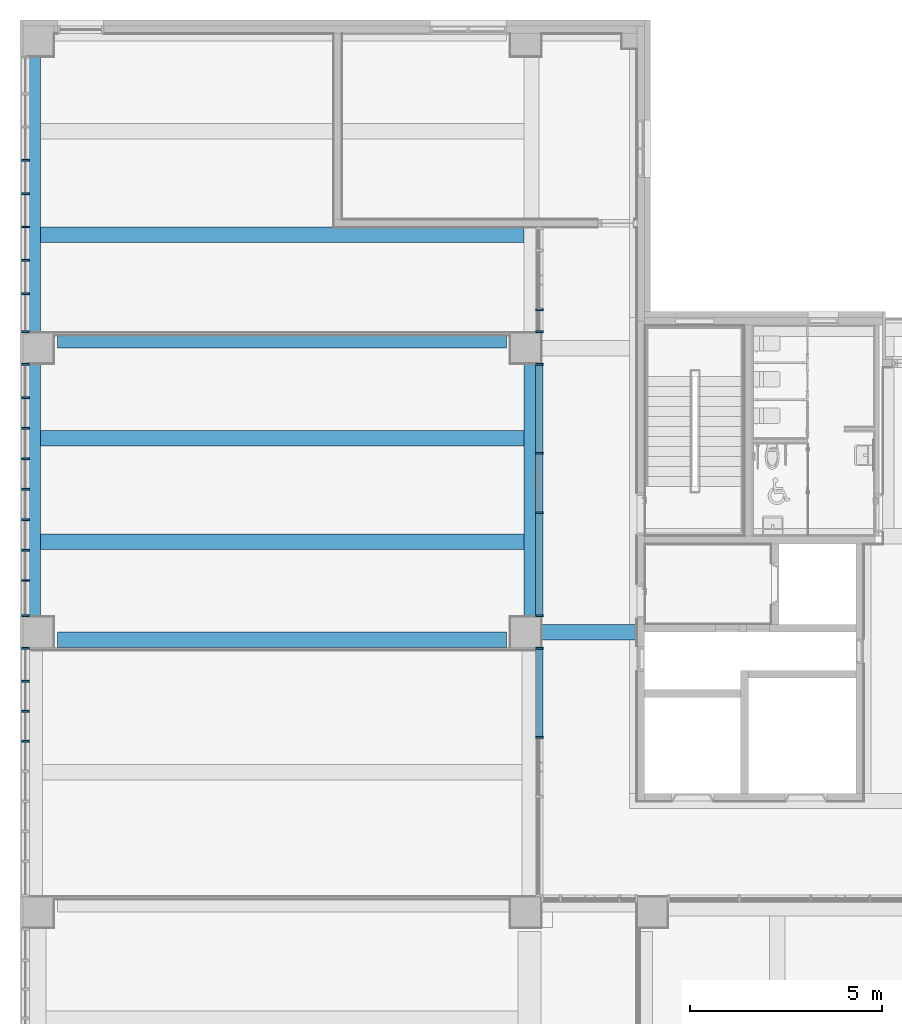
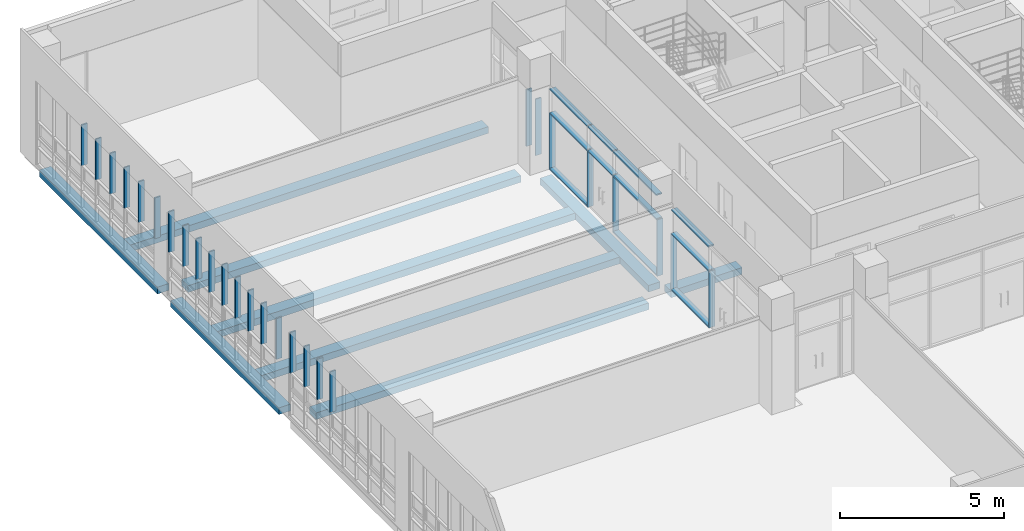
# One storey, part 7 of 74: 38 members, 9 beams, 6 elements without a shape of their own.
"""IFC2X3 building model written with IfcOpenShell, lengths in millimetres."""

from ifc_helpers import new_model, entity, si_unit, converted_unit, derived_unit, direction, frame, frame_2d, origin, origin_2d_with_axis, place, context, subcontext, project, spatial, rectangle, extrude, source, transform, mapped, material, type_object, type_shapes, element, aggregate, save


model = new_model("IFC2X3")

# Units and contexts
model_context = context("Model", 3, precision=0.01, world=origin(), true_north=direction((6.123031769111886e-17, 1.0)))
body_context = subcontext(model_context, "Body", "Model", "MODEL_VIEW")
ifc_project = project(units=[si_unit("LENGTHUNIT", "METRE", prefix="MILLI"), si_unit("AREAUNIT", "SQUARE_METRE"), si_unit("VOLUMEUNIT", "CUBIC_METRE"), converted_unit("PLANEANGLEUNIT", "DEGREE", entity("IfcRatioMeasure", 0.017453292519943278), si_unit("PLANEANGLEUNIT", "RADIAN"), dimensions=[0, 0, 0, 0, 0, 0, 0]), si_unit("MASSUNIT", "GRAM", prefix="KILO"), derived_unit("MASSDENSITYUNIT", [(si_unit("MASSUNIT", "GRAM", prefix="KILO"), 1), (si_unit("LENGTHUNIT", "METRE"), -3)]), derived_unit("MOMENTOFINERTIAUNIT", [(si_unit("LENGTHUNIT", "METRE"), 4)]), si_unit("TIMEUNIT", "SECOND"), si_unit("FREQUENCYUNIT", "HERTZ"), si_unit("THERMODYNAMICTEMPERATUREUNIT", "DEGREE_CELSIUS"), derived_unit("THERMALTRANSMITTANCEUNIT", [(si_unit("MASSUNIT", "GRAM", prefix="KILO"), 1), (si_unit("THERMODYNAMICTEMPERATUREUNIT", "KELVIN"), -1), (si_unit("TIMEUNIT", "SECOND"), -3)]), derived_unit("VOLUMETRICFLOWRATEUNIT", [(si_unit("LENGTHUNIT", "METRE"), 3), (si_unit("TIMEUNIT", "SECOND"), -1)]), derived_unit("MASSFLOWRATEUNIT", [(si_unit("MASSUNIT", "GRAM", prefix="KILO"), 1), (si_unit("TIMEUNIT", "SECOND"), -1)]), derived_unit("ROTATIONALFREQUENCYUNIT", [(si_unit("TIMEUNIT", "SECOND"), -1)]), si_unit("ELECTRICCURRENTUNIT", "AMPERE"), si_unit("ELECTRICVOLTAGEUNIT", "VOLT"), si_unit("POWERUNIT", "WATT"), si_unit("FORCEUNIT", "NEWTON", prefix="KILO"), si_unit("ILLUMINANCEUNIT", "LUX"), si_unit("LUMINOUSFLUXUNIT", "LUMEN"), si_unit("LUMINOUSINTENSITYUNIT", "CANDELA"), derived_unit("USERDEFINED", [(si_unit("MASSUNIT", "GRAM", prefix="KILO"), -1), (si_unit("LENGTHUNIT", "METRE"), -2), (si_unit("TIMEUNIT", "SECOND"), 3), (si_unit("LUMINOUSFLUXUNIT", "LUMEN"), 1)]), derived_unit("SOUNDPOWERUNIT", [(si_unit("MASSUNIT", "GRAM", prefix="KILO"), 1), (si_unit("LENGTHUNIT", "METRE"), 2), (si_unit("TIMEUNIT", "SECOND"), -3)]), derived_unit("SOUNDPRESSUREUNIT", [(si_unit("MASSUNIT", "GRAM", prefix="KILO"), 1), (si_unit("LENGTHUNIT", "METRE"), -1), (si_unit("TIMEUNIT", "SECOND"), -2)]), derived_unit("LINEARVELOCITYUNIT", [(si_unit("LENGTHUNIT", "METRE"), 1), (si_unit("TIMEUNIT", "SECOND"), -1)]), si_unit("PRESSUREUNIT", "PASCAL"), derived_unit("USERDEFINED", [(si_unit("LENGTHUNIT", "METRE"), -2), (si_unit("MASSUNIT", "GRAM", prefix="KILO"), 1), (si_unit("TIMEUNIT", "SECOND"), -2)]), derived_unit("LINEARFORCEUNIT", [(si_unit("MASSUNIT", "GRAM", prefix="KILO"), 1), (si_unit("LENGTHUNIT", "METRE"), 1), (si_unit("TIMEUNIT", "SECOND"), -2), (si_unit("LENGTHUNIT", "METRE"), -1)]), derived_unit("PLANARFORCEUNIT", [(si_unit("MASSUNIT", "GRAM", prefix="KILO"), 1), (si_unit("LENGTHUNIT", "METRE"), 1), (si_unit("TIMEUNIT", "SECOND"), -2), (si_unit("LENGTHUNIT", "METRE"), -2)])], contexts=[model_context])

# Site, building, storey
site_placement = place(None, frame((-14167.972527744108, -657.2125860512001, 0.0)))
site = spatial("IfcSite", under=ifc_project, at=site_placement, Name="Default", CompositionType="ELEMENT")
building_placement = place(site_placement, origin())
building = spatial("IfcBuilding", under=site, at=building_placement, Name="Sample Building", CompositionType="ELEMENT")
storey_placement = place(building_placement, frame((0.0, 0.0, 4800.0)))
storey = spatial("IfcBuildingStorey", under=building, at=storey_placement, Name="지상 2층", CompositionType="ELEMENT", Elevation=4800.000000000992)

# Curtain wall, members
curtain_wall_type = type_object("IfcCurtainWallType", Name="커튼월:CW112-스테인리스 스틸 커튼월", PredefinedType="NOTDEFINED")
curtain_wall_1_placement = place(storey_placement, frame((0.0, 0.0, -4800.0)))
curtain_wall_1 = element("IfcCurtainWall", 1, at=curtain_wall_1_placement, inside=storey, type_object=curtain_wall_type, Name="커튼월:CW112-스테인리스 스틸 커튼월", ObjectType="커튼월:CW112-스테인리스 스틸 커튼월")
ifc_material_1 = material(Name="<Unnamed>")
member_type_1 = type_object("IfcMemberType", Name="직사각형 멀리언:CW200-직사각형 멀리언 50x200mm", PredefinedType="MULLION", material=ifc_material_1)
shared_shape_1 = source(origin(), body_context, "Body", "SweptSolid", [
    extrude(rectangle(XDim=200.0, YDim=50.0, at=origin_2d_with_axis()), frame((0.0, 0.0, -2100.0), z_axis=(0.0, 0.0, 1.0), x_axis=(0.0, -1.0, 0.0)), (0.0, 0.0, 1.0), 2100.0),
])
type_shapes(member_type_1, [shared_shape_1])
member_1_placement = place(curtain_wall_1_placement, frame((27522.955105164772, 23067.212307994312, 4880.0), z_axis=(0.0, 0.0, -1.0), x_axis=(0.0, -1.0, 0.0)))
member_1 = element("IfcMember", 2, at=member_1_placement, type_object=member_type_1, material=ifc_material_1, Name="직사각형 멀리언:CW200-직사각형 멀리언 50x200mm", ObjectType="직사각형 멀리언:CW200-직사각형 멀리언 50x200mm", context=body_context, shape_type="MappedRepresentation", body=[
    mapped(shared_shape_1, transform((0.0, 0.0, 0.0), scale=1.0)),
])
member_2_placement = place(curtain_wall_1_placement, frame((27522.955105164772, 24617.21230799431, 4880.0), z_axis=(0.0, 0.0, -1.0), x_axis=(0.0, -1.0, 0.0)))
member_2 = element("IfcMember", 3, at=member_2_placement, type_object=member_type_1, material=ifc_material_1, Name="직사각형 멀리언:CW200-직사각형 멀리언 50x200mm", ObjectType="직사각형 멀리언:CW200-직사각형 멀리언 50x200mm", context=body_context, shape_type="MappedRepresentation", body=[
    mapped(shared_shape_1, transform((0.0, 0.0, 0.0), scale=1.0)),
])

# Curtain wall, member
curtain_wall_2_placement = place(storey_placement, frame((0.0, 0.0, -4800.0)))
curtain_wall_2 = element("IfcCurtainWall", 4, at=curtain_wall_2_placement, inside=storey, type_object=curtain_wall_type, Name="커튼월:CW112-스테인리스 스틸 커튼월", ObjectType="커튼월:CW112-스테인리스 스틸 커튼월")
member_3_placement = place(curtain_wall_2_placement, frame((27522.972491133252, 17217.17762439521, 4880.0), z_axis=(0.0, 0.0, -1.0), x_axis=(0.0, -1.0, 0.0)))
member_3 = element("IfcMember", 5, at=member_3_placement, type_object=member_type_1, material=ifc_material_1, Name="직사각형 멀리언:CW200-직사각형 멀리언 50x200mm", ObjectType="직사각형 멀리언:CW200-직사각형 멀리언 50x200mm", context=body_context, shape_type="MappedRepresentation", body=[
    mapped(shared_shape_1, transform((0.0, 0.0, 0.0), scale=1.0)),
])

curtain_wall_3_placement = place(storey_placement, frame((0.0, 0.0, -4800.0)))
curtain_wall_3 = element("IfcCurtainWall", 6, at=curtain_wall_3_placement, inside=storey, type_object=curtain_wall_type, Name="커튼월:CW112-스테인리스 스틸 커튼월", ObjectType="커튼월:CW112-스테인리스 스틸 커튼월")
member_4_placement = place(curtain_wall_3_placement, frame((27522.98031454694, 28352.21258605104, 4880.0), z_axis=(0.0, 0.0, -1.0), x_axis=(0.0, -1.0, 0.0)))
member_4 = element("IfcMember", 7, at=member_4_placement, type_object=member_type_1, material=ifc_material_1, Name="직사각형 멀리언:CW200-직사각형 멀리언 50x200mm", ObjectType="직사각형 멀리언:CW200-직사각형 멀리언 50x200mm", context=body_context, shape_type="MappedRepresentation", body=[
    mapped(shared_shape_1, transform((0.0, 0.0, 0.0), scale=1.0)),
])

# Member
member_type_2 = type_object("IfcMemberType", Name="직사각형 멀리언:CW200-직사각형 멀리언 50x200mm", PredefinedType="MULLION", material=ifc_material_1)
shared_shape_2 = source(origin(), body_context, "Body", "SweptSolid", [
    extrude(rectangle(XDim=200.0, YDim=50.0, at=origin_2d_with_axis()), frame((-25.0, 0.0, -2100.0), z_axis=(0.0, 0.0, 1.0), x_axis=(0.0, -1.0, 0.0)), (0.0, 0.0, 1.0), 2099.9999999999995),
])
type_shapes(member_type_2, [shared_shape_2])
member_5_placement = place(curtain_wall_1_placement, frame((27522.955105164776, 26957.21230799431, 6980.0), z_axis=(0.0, 0.0, 1.0), x_axis=(0.0, 1.0, 0.0)))
member_5 = element("IfcMember", 8, at=member_5_placement, type_object=member_type_2, material=ifc_material_1, Name="직사각형 멀리언:CW200-직사각형 멀리언 50x200mm", ObjectType="직사각형 멀리언:CW200-직사각형 멀리언 50x200mm", context=body_context, shape_type="MappedRepresentation", body=[
    mapped(shared_shape_2, transform((0.0, 0.0, 0.0), scale=1.0)),
])

member_6_placement = place(curtain_wall_2_placement, frame((27522.972491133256, 19557.212307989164, 6980.0), z_axis=(0.0, 0.0, 1.0), x_axis=(0.0, 1.0, 0.0)))
member_6 = element("IfcMember", 9, at=member_6_placement, type_object=member_type_2, material=ifc_material_1, Name="직사각형 멀리언:CW200-직사각형 멀리언 50x200mm", ObjectType="직사각형 멀리언:CW200-직사각형 멀리언 50x200mm", context=body_context, shape_type="MappedRepresentation", body=[
    mapped(shared_shape_2, transform((0.0, 0.0, 0.0), scale=1.0)),
])

member_type_3 = type_object("IfcMemberType", Name="직사각형 멀리언:CW200-직사각형 멀리언 50x200mm", PredefinedType="MULLION", material=ifc_material_1)
shared_shape_3 = source(origin(), body_context, "Body", "SweptSolid", [
    extrude(rectangle(XDim=200.0, YDim=50.0, at=origin_2d_with_axis()), frame((-25.0, 0.0, -2100.0), z_axis=(0.0, 0.0, 1.0), x_axis=(0.0, -1.0, 0.0)), (0.0, 0.0, 1.0), 2100.0),
])
type_shapes(member_type_3, [shared_shape_3])
member_7_placement = place(curtain_wall_1_placement, frame((27522.95510516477, 20357.212307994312, 4880.0), z_axis=(0.0, 0.0, -1.0), x_axis=(0.0, -1.0, 0.0)))
member_7 = element("IfcMember", 10, at=member_7_placement, type_object=member_type_3, material=ifc_material_1, Name="직사각형 멀리언:CW200-직사각형 멀리언 50x200mm", ObjectType="직사각형 멀리언:CW200-직사각형 멀리언 50x200mm", context=body_context, shape_type="MappedRepresentation", body=[
    mapped(shared_shape_3, transform((0.0, 0.0, 0.0), scale=1.0)),
])

member_8_placement = place(curtain_wall_3_placement, frame((27522.98031454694, 27757.212586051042, 4880.0), z_axis=(0.0, 0.0, -1.0), x_axis=(0.0, -1.0, 0.0)))
member_8 = element("IfcMember", 11, at=member_8_placement, type_object=member_type_3, material=ifc_material_1, Name="직사각형 멀리언:CW200-직사각형 멀리언 50x200mm", ObjectType="직사각형 멀리언:CW200-직사각형 멀리언 50x200mm", context=body_context, shape_type="MappedRepresentation", body=[
    mapped(shared_shape_3, transform((0.0, 0.0, 0.0), scale=1.0)),
])

aggregate(curtain_wall_3, [member_8, member_4])

member_type_4 = type_object("IfcMemberType", Name="직사각형 멀리언:CW200-직사각형 멀리언 50x200mm", PredefinedType="MULLION", material=ifc_material_1)
shared_shape_4 = source(origin(), body_context, "Body", "SweptSolid", [
    extrude(rectangle(XDim=200.0, YDim=50.0, at=origin_2d_with_axis()), frame((-25.0, 0.0, -1500.0), z_axis=(0.0, 0.0, 1.0), x_axis=(0.0, -1.0, 0.0)), (0.0, 0.0, 1.0), 1500.0000000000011),
])
type_shapes(member_type_4, [shared_shape_4])
member_9_placement = place(curtain_wall_1_placement, frame((27522.955105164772, 23092.21230799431, 7900.0), z_axis=(0.0, -1.0, 0.0), x_axis=(0.0, 0.0, 1.0)))
member_9 = element("IfcMember", 12, at=member_9_placement, type_object=member_type_4, material=ifc_material_1, Name="직사각형 멀리언:CW200-직사각형 멀리언 50x200mm", ObjectType="직사각형 멀리언:CW200-직사각형 멀리언 50x200mm", context=body_context, shape_type="MappedRepresentation", body=[
    mapped(shared_shape_4, transform((0.0, 0.0, 0.0), scale=1.0)),
])

member_type_5 = type_object("IfcMemberType", Name="직사각형 멀리언:CW200-직사각형 멀리언 50x200mm", PredefinedType="MULLION", material=ifc_material_1)
shared_shape_5 = source(origin(), body_context, "Body", "SweptSolid", [
    extrude(rectangle(XDim=200.0, YDim=50.0, at=origin_2d_with_axis()), frame((0.0, 0.0, -1500.0), z_axis=(0.0, 0.0, 1.0), x_axis=(0.0, -1.0, 0.0)), (0.0, 0.0, 1.0), 1500.0000000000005),
])
type_shapes(member_type_5, [shared_shape_5])
member_10_placement = place(curtain_wall_1_placement, frame((27522.955105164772, 23092.21230799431, 6980.0), z_axis=(0.0, -1.0, 0.0), x_axis=(0.0, 0.0, 1.0)))
member_10 = element("IfcMember", 13, at=member_10_placement, type_object=member_type_5, material=ifc_material_1, Name="직사각형 멀리언:CW200-직사각형 멀리언 50x200mm", ObjectType="직사각형 멀리언:CW200-직사각형 멀리언 50x200mm", context=body_context, shape_type="MappedRepresentation", body=[
    mapped(shared_shape_5, transform((0.0, 0.0, 0.0), scale=1.0)),
])

# Curtain wall, member
curtain_wall_4_placement = place(storey_placement, frame((0.0, 0.0, -4800.0)))
curtain_wall_4 = element("IfcCurtainWall", 14, at=curtain_wall_4_placement, inside=storey, type_object=curtain_wall_type, Name="커튼월:CW112-스테인리스 스틸 커튼월", ObjectType="커튼월:CW112-스테인리스 스틸 커튼월")
member_type_6 = type_object("IfcMemberType", Name="직사각형 멀리언:CW200-직사각형 멀리언 50x200mm", PredefinedType="MULLION", material=ifc_material_1)
shared_shape_6 = source(origin(), body_context, "Body", "SweptSolid", [
    extrude(rectangle(XDim=200.0, YDim=50.0, at=origin_2d_with_axis()), frame((-25.0, 0.0, -1520.0), z_axis=(0.0, 0.0, 1.0), x_axis=(0.0, -1.0, 0.0)), (0.0, 0.0, 1.0), 1520.0000000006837),
])
type_shapes(member_type_6, [shared_shape_6])
member_11_placement = place(curtain_wall_4_placement, frame((14129.839654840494, 26957.19489124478, 8000.0), z_axis=(0.0, 0.0, 1.0), x_axis=(0.0, 1.0, 0.0)))
member_11 = element("IfcMember", 15, at=member_11_placement, type_object=member_type_6, material=ifc_material_1, Name="직사각형 멀리언:CW200-직사각형 멀리언 50x200mm", ObjectType="직사각형 멀리언:CW200-직사각형 멀리언 50x200mm", context=body_context, shape_type="MappedRepresentation", body=[
    mapped(shared_shape_6, transform((0.0, 0.0, 0.0), scale=1.0)),
])

curtain_wall_5_placement = place(storey_placement, frame((0.0, 0.0, -4800.0)))
curtain_wall_5 = element("IfcCurtainWall", 16, at=curtain_wall_5_placement, inside=storey, type_object=curtain_wall_type, Name="커튼월:CW112-스테인리스 스틸 커튼월", ObjectType="커튼월:CW112-스테인리스 스틸 커튼월")
member_12_placement = place(curtain_wall_5_placement, frame((14130.472570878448, 19557.212307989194, 8000.0), z_axis=(0.0, 0.0, 1.0), x_axis=(0.0, 1.0, 0.0)))
member_12 = element("IfcMember", 17, at=member_12_placement, type_object=member_type_6, material=ifc_material_1, Name="직사각형 멀리언:CW200-직사각형 멀리언 50x200mm", ObjectType="직사각형 멀리언:CW200-직사각형 멀리언 50x200mm", context=body_context, shape_type="MappedRepresentation", body=[
    mapped(shared_shape_6, transform((0.0, 0.0, 0.0), scale=1.0)),
])

# Member
member_type_7 = type_object("IfcMemberType", Name="직사각형 멀리언:CW200-직사각형 멀리언 50x200mm", PredefinedType="MULLION", material=ifc_material_1)
shared_shape_7 = source(origin(), body_context, "Body", "SweptSolid", [
    extrude(rectangle(XDim=200.0, YDim=50.0, at=origin_2d_with_axis()), frame((-25.0, 0.0, -1520.0), z_axis=(0.0, 0.0, 1.0), x_axis=(0.0, -1.0, 0.0)), (0.0, 0.0, 1.0), 1520.0000000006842),
])
type_shapes(member_type_7, [shared_shape_7])
member_13_placement = place(curtain_wall_4_placement, frame((14129.839654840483, 20357.19489124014, 6480.0), z_axis=(0.0, 0.0, -1.0), x_axis=(0.0, -1.0, 0.0)))
member_13 = element("IfcMember", 18, at=member_13_placement, type_object=member_type_7, material=ifc_material_1, Name="직사각형 멀리언:CW200-직사각형 멀리언 50x200mm", ObjectType="직사각형 멀리언:CW200-직사각형 멀리언 50x200mm", context=body_context, shape_type="MappedRepresentation", body=[
    mapped(shared_shape_7, transform((0.0, 0.0, 0.0), scale=1.0)),
])

member_type_8 = type_object("IfcMemberType", Name="직사각형 멀리언:CW200-직사각형 멀리언 50x200mm", PredefinedType="MULLION", material=ifc_material_1)
shared_shape_8 = source(origin(), body_context, "Body", "SweptSolid", [
    extrude(rectangle(XDim=200.0, YDim=50.0, at=origin_2d_with_axis()), frame((0.0, 0.0, -1520.0), z_axis=(0.0, 0.0, 1.0), x_axis=(0.0, -1.0, 0.0)), (0.0, 0.0, 1.0), 1520.0000000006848),
])
type_shapes(member_type_8, [shared_shape_8])
member_14_placement = place(curtain_wall_4_placement, frame((14129.839654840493, 26063.462275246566, 6480.0), z_axis=(0.0, 0.0, -1.0), x_axis=(0.0, -1.0, 0.0)))
member_14 = element("IfcMember", 19, at=member_14_placement, type_object=member_type_8, material=ifc_material_1, Name="직사각형 멀리언:CW200-직사각형 멀리언 50x200mm", ObjectType="직사각형 멀리언:CW200-직사각형 멀리언 50x200mm", context=body_context, shape_type="MappedRepresentation", body=[
    mapped(shared_shape_8, transform((0.0, 0.0, 0.0), scale=1.0)),
])

member_15_placement = place(curtain_wall_4_placement, frame((14129.839654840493, 25269.712275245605, 6480.0), z_axis=(0.0, 0.0, -1.0), x_axis=(0.0, -1.0, 0.0)))
member_15 = element("IfcMember", 20, at=member_15_placement, type_object=member_type_8, material=ifc_material_1, Name="직사각형 멀리언:CW200-직사각형 멀리언 50x200mm", ObjectType="직사각형 멀리언:CW200-직사각형 멀리언 50x200mm", context=body_context, shape_type="MappedRepresentation", body=[
    mapped(shared_shape_8, transform((0.0, 0.0, 0.0), scale=1.0)),
])

member_16_placement = place(curtain_wall_4_placement, frame((14129.83965484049, 24475.962275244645, 6480.0), z_axis=(0.0, 0.0, -1.0), x_axis=(0.0, -1.0, 0.0)))
member_16 = element("IfcMember", 21, at=member_16_placement, type_object=member_type_8, material=ifc_material_1, Name="직사각형 멀리언:CW200-직사각형 멀리언 50x200mm", ObjectType="직사각형 멀리언:CW200-직사각형 멀리언 50x200mm", context=body_context, shape_type="MappedRepresentation", body=[
    mapped(shared_shape_8, transform((0.0, 0.0, 0.0), scale=1.0)),
])

member_17_placement = place(curtain_wall_4_placement, frame((14129.83965484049, 23682.21227524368, 6480.0), z_axis=(0.0, 0.0, -1.0), x_axis=(0.0, -1.0, 0.0)))
member_17 = element("IfcMember", 22, at=member_17_placement, type_object=member_type_8, material=ifc_material_1, Name="직사각형 멀리언:CW200-직사각형 멀리언 50x200mm", ObjectType="직사각형 멀리언:CW200-직사각형 멀리언 50x200mm", context=body_context, shape_type="MappedRepresentation", body=[
    mapped(shared_shape_8, transform((0.0, 0.0, 0.0), scale=1.0)),
])

member_18_placement = place(curtain_wall_4_placement, frame((14129.839654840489, 22888.46227524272, 6480.0), z_axis=(0.0, 0.0, -1.0), x_axis=(0.0, -1.0, 0.0)))
member_18 = element("IfcMember", 23, at=member_18_placement, type_object=member_type_8, material=ifc_material_1, Name="직사각형 멀리언:CW200-직사각형 멀리언 50x200mm", ObjectType="직사각형 멀리언:CW200-직사각형 멀리언 50x200mm", context=body_context, shape_type="MappedRepresentation", body=[
    mapped(shared_shape_8, transform((0.0, 0.0, 0.0), scale=1.0)),
])

member_19_placement = place(curtain_wall_4_placement, frame((14129.839654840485, 22094.71227524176, 6480.0), z_axis=(0.0, 0.0, -1.0), x_axis=(0.0, -1.0, 0.0)))
member_19 = element("IfcMember", 24, at=member_19_placement, type_object=member_type_8, material=ifc_material_1, Name="직사각형 멀리언:CW200-직사각형 멀리언 50x200mm", ObjectType="직사각형 멀리언:CW200-직사각형 멀리언 50x200mm", context=body_context, shape_type="MappedRepresentation", body=[
    mapped(shared_shape_8, transform((0.0, 0.0, 0.0), scale=1.0)),
])

member_20_placement = place(curtain_wall_4_placement, frame((14129.839654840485, 21300.962275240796, 6480.0), z_axis=(0.0, 0.0, -1.0), x_axis=(0.0, -1.0, 0.0)))
member_20 = element("IfcMember", 25, at=member_20_placement, type_object=member_type_8, material=ifc_material_1, Name="직사각형 멀리언:CW200-직사각형 멀리언 50x200mm", ObjectType="직사각형 멀리언:CW200-직사각형 멀리언 50x200mm", context=body_context, shape_type="MappedRepresentation", body=[
    mapped(shared_shape_8, transform((0.0, 0.0, 0.0), scale=1.0)),
])

aggregate(curtain_wall_4, [member_11, member_13, member_14, member_15, member_16, member_17, member_18, member_19, member_20])

member_21_placement = place(curtain_wall_5_placement, frame((14130.472570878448, 18675.962275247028, 6480.0), z_axis=(0.0, 0.0, -1.0), x_axis=(0.0, -1.0, 0.0)))
member_21 = element("IfcMember", 26, at=member_21_placement, type_object=member_type_8, material=ifc_material_1, Name="직사각형 멀리언:CW200-직사각형 멀리언 50x200mm", ObjectType="직사각형 멀리언:CW200-직사각형 멀리언 50x200mm", context=body_context, shape_type="MappedRepresentation", body=[
    mapped(shared_shape_8, transform((0.0, 0.0, 0.0), scale=1.0)),
])

member_22_placement = place(curtain_wall_5_placement, frame((14130.472570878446, 17894.712275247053, 6480.0), z_axis=(0.0, 0.0, -1.0), x_axis=(0.0, -1.0, 0.0)))
member_22 = element("IfcMember", 27, at=member_22_placement, type_object=member_type_8, material=ifc_material_1, Name="직사각형 멀리언:CW200-직사각형 멀리언 50x200mm", ObjectType="직사각형 멀리언:CW200-직사각형 멀리언 50x200mm", context=body_context, shape_type="MappedRepresentation", body=[
    mapped(shared_shape_8, transform((0.0, 0.0, 0.0), scale=1.0)),
])

member_23_placement = place(curtain_wall_5_placement, frame((14130.472570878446, 17113.46227524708, 6480.0), z_axis=(0.0, 0.0, -1.0), x_axis=(0.0, -1.0, 0.0)))
member_23 = element("IfcMember", 28, at=member_23_placement, type_object=member_type_8, material=ifc_material_1, Name="직사각형 멀리언:CW200-직사각형 멀리언 50x200mm", ObjectType="직사각형 멀리언:CW200-직사각형 멀리언 50x200mm", context=body_context, shape_type="MappedRepresentation", body=[
    mapped(shared_shape_8, transform((0.0, 0.0, 0.0), scale=1.0)),
])

aggregate(curtain_wall_5, [member_12, member_21, member_22, member_23])

# Curtain wall, members
curtain_wall_6_placement = place(storey_placement, frame((0.0, 0.0, -4800.0)))
curtain_wall_6 = element("IfcCurtainWall", 29, at=curtain_wall_6_placement, inside=storey, type_object=curtain_wall_type, Name="커튼월:CW112-스테인리스 스틸 커튼월", ObjectType="커튼월:CW112-스테인리스 스틸 커튼월")
member_type_9 = type_object("IfcMemberType", Name="직사각형 멀리언:CW200-직사각형 멀리언 50x200mm", PredefinedType="MULLION", material=ifc_material_1)
shared_shape_9 = source(origin(), body_context, "Body", "SweptSolid", [
    extrude(rectangle(XDim=200.0, YDim=50.0, at=origin_2d_with_axis()), frame((-25.0, 0.0, -1520.0), z_axis=(0.0, 0.0, 1.0), x_axis=(0.0, -1.0, 0.0)), (0.0, 0.0, 1.0), 1520.000000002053),
])
type_shapes(member_type_9, [shared_shape_9])
member_24_placement = place(curtain_wall_6_placement, frame((14130.455105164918, 27757.212275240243, 6480.0), z_axis=(0.0, 0.0, -1.0), x_axis=(0.0, -1.0, 0.0)))
member_24 = element("IfcMember", 30, at=member_24_placement, type_object=member_type_9, material=ifc_material_1, Name="직사각형 멀리언:CW200-직사각형 멀리언 50x200mm", ObjectType="직사각형 멀리언:CW200-직사각형 멀리언 50x200mm", context=body_context, shape_type="MappedRepresentation", body=[
    mapped(shared_shape_9, transform((0.0, 0.0, 0.0), scale=1.0)),
])
member_type_10 = type_object("IfcMemberType", Name="직사각형 멀리언:CW200-직사각형 멀리언 50x200mm", PredefinedType="MULLION", material=ifc_material_1)
shared_shape_10 = source(origin(), body_context, "Body", "SweptSolid", [
    extrude(rectangle(XDim=200.0, YDim=50.0, at=origin_2d_with_axis()), frame((0.0, 0.0, -1520.0), z_axis=(0.0, 0.0, 1.0), x_axis=(0.0, -1.0, 0.0)), (0.0, 0.0, 1.0), 1520.000000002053),
])
type_shapes(member_type_10, [shared_shape_10])
member_25_placement = place(curtain_wall_6_placement, frame((14130.455105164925, 32250.96227524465, 6480.0), z_axis=(0.0, 0.0, -1.0), x_axis=(0.0, -1.0, 0.0)))
member_25 = element("IfcMember", 31, at=member_25_placement, type_object=member_type_10, material=ifc_material_1, Name="직사각형 멀리언:CW200-직사각형 멀리언 50x200mm", ObjectType="직사각형 멀리언:CW200-직사각형 멀리언 50x200mm", context=body_context, shape_type="MappedRepresentation", body=[
    mapped(shared_shape_10, transform((0.0, 0.0, 0.0), scale=1.0)),
])
member_26_placement = place(curtain_wall_6_placement, frame((14130.455105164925, 31382.212275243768, 6480.0), z_axis=(0.0, 0.0, -1.0), x_axis=(0.0, -1.0, 0.0)))
member_26 = element("IfcMember", 32, at=member_26_placement, type_object=member_type_10, material=ifc_material_1, Name="직사각형 멀리언:CW200-직사각형 멀리언 50x200mm", ObjectType="직사각형 멀리언:CW200-직사각형 멀리언 50x200mm", context=body_context, shape_type="MappedRepresentation", body=[
    mapped(shared_shape_10, transform((0.0, 0.0, 0.0), scale=1.0)),
])
member_27_placement = place(curtain_wall_6_placement, frame((14130.455105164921, 30513.462275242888, 6480.0), z_axis=(0.0, 0.0, -1.0), x_axis=(0.0, -1.0, 0.0)))
member_27 = element("IfcMember", 33, at=member_27_placement, type_object=member_type_10, material=ifc_material_1, Name="직사각형 멀리언:CW200-직사각형 멀리언 50x200mm", ObjectType="직사각형 멀리언:CW200-직사각형 멀리언 50x200mm", context=body_context, shape_type="MappedRepresentation", body=[
    mapped(shared_shape_10, transform((0.0, 0.0, 0.0), scale=1.0)),
])
member_28_placement = place(curtain_wall_6_placement, frame((14130.455105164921, 29644.712275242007, 6480.0), z_axis=(0.0, 0.0, -1.0), x_axis=(0.0, -1.0, 0.0)))
member_28 = element("IfcMember", 34, at=member_28_placement, type_object=member_type_10, material=ifc_material_1, Name="직사각형 멀리언:CW200-직사각형 멀리언 50x200mm", ObjectType="직사각형 멀리언:CW200-직사각형 멀리언 50x200mm", context=body_context, shape_type="MappedRepresentation", body=[
    mapped(shared_shape_10, transform((0.0, 0.0, 0.0), scale=1.0)),
])
member_29_placement = place(curtain_wall_6_placement, frame((14130.45510516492, 28775.962275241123, 6480.0), z_axis=(0.0, 0.0, -1.0), x_axis=(0.0, -1.0, 0.0)))
member_29 = element("IfcMember", 35, at=member_29_placement, type_object=member_type_10, material=ifc_material_1, Name="직사각형 멀리언:CW200-직사각형 멀리언 50x200mm", ObjectType="직사각형 멀리언:CW200-직사각형 멀리언 50x200mm", context=body_context, shape_type="MappedRepresentation", body=[
    mapped(shared_shape_10, transform((0.0, 0.0, 0.0), scale=1.0)),
])
aggregate(curtain_wall_6, [member_24, member_25, member_26, member_27, member_28, member_29])

# Member
member_type_11 = type_object("IfcMemberType", Name="직사각형 멀리언:CW200-직사각형 멀리언 50x200mm", PredefinedType="MULLION", material=ifc_material_1)
shared_shape_11 = source(origin(), body_context, "Body", "SweptSolid", [
    extrude(rectangle(XDim=200.0, YDim=50.0, at=origin_2d_with_axis()), frame((-25.0, 0.0, -2635.0), z_axis=(0.0, 0.0, 1.0), x_axis=(0.0, -1.0, 0.0)), (0.0, 0.0, 1.0), 2635.000000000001),
])
type_shapes(member_type_11, [shared_shape_11])
member_30_placement = place(curtain_wall_1_placement, frame((27522.95510516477, 20407.212307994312, 7900.0), z_axis=(0.0, -1.0, 0.0), x_axis=(0.0, 0.0, 1.0)))
member_30 = element("IfcMember", 36, at=member_30_placement, type_object=member_type_11, material=ifc_material_1, Name="직사각형 멀리언:CW200-직사각형 멀리언 50x200mm", ObjectType="직사각형 멀리언:CW200-직사각형 멀리언 50x200mm", context=body_context, shape_type="MappedRepresentation", body=[
    mapped(shared_shape_11, transform((0.0, 0.0, 0.0), scale=1.0)),
])

member_type_12 = type_object("IfcMemberType", Name="직사각형 멀리언:CW200-직사각형 멀리언 50x200mm", PredefinedType="MULLION", material=ifc_material_1)
shared_shape_12 = source(origin(), body_context, "Body", "SweptSolid", [
    extrude(rectangle(XDim=200.0, YDim=50.0, at=origin_2d_with_axis()), frame((-25.0, 0.0, -2265.0), z_axis=(0.0, 0.0, 1.0), x_axis=(0.0, -1.0, 0.0)), (0.0, 0.0, 1.0), 2265.000000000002),
])
type_shapes(member_type_12, [shared_shape_12])
member_31_placement = place(curtain_wall_1_placement, frame((27522.955105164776, 26907.21230799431, 4880.0), z_axis=(0.0, 1.0, 0.0), x_axis=(0.0, 0.0, -1.0)))
member_31 = element("IfcMember", 37, at=member_31_placement, type_object=member_type_12, material=ifc_material_1, Name="직사각형 멀리언:CW200-직사각형 멀리언 50x200mm", ObjectType="직사각형 멀리언:CW200-직사각형 멀리언 50x200mm", context=body_context, shape_type="MappedRepresentation", body=[
    mapped(shared_shape_12, transform((0.0, 0.0, 0.0), scale=1.0)),
])

member_32_placement = place(curtain_wall_2_placement, frame((27522.972491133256, 19507.212307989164, 4880.0), z_axis=(0.0, 1.0, 0.0), x_axis=(0.0, 0.0, -1.0)))
member_32 = element("IfcMember", 38, at=member_32_placement, type_object=member_type_12, material=ifc_material_1, Name="직사각형 멀리언:CW200-직사각형 멀리언 50x200mm", ObjectType="직사각형 멀리언:CW200-직사각형 멀리언 50x200mm", context=body_context, shape_type="MappedRepresentation", body=[
    mapped(shared_shape_12, transform((0.0, 0.0, 0.0), scale=1.0)),
])

member_type_13 = type_object("IfcMemberType", Name="직사각형 멀리언:CW200-직사각형 멀리언 50x200mm", PredefinedType="MULLION", material=ifc_material_1)
shared_shape_13 = source(origin(), body_context, "Body", "SweptSolid", [
    extrude(rectangle(XDim=200.0, YDim=50.0, at=origin_2d_with_axis()), frame((-25.0, 0.0, -2635.0), z_axis=(0.0, 0.0, 1.0), x_axis=(0.0, -1.0, 0.0)), (0.0, 0.0, 1.0), 2634.9999999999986),
])
type_shapes(member_type_13, [shared_shape_13])
member_33_placement = place(curtain_wall_1_placement, frame((27522.955105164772, 23042.212307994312, 4880.0), z_axis=(0.0, 1.0, 0.0), x_axis=(0.0, 0.0, -1.0)))
member_33 = element("IfcMember", 39, at=member_33_placement, type_object=member_type_13, material=ifc_material_1, Name="직사각형 멀리언:CW200-직사각형 멀리언 50x200mm", ObjectType="직사각형 멀리언:CW200-직사각형 멀리언 50x200mm", context=body_context, shape_type="MappedRepresentation", body=[
    mapped(shared_shape_13, transform((0.0, 0.0, 0.0), scale=1.0)),
])

member_type_14 = type_object("IfcMemberType", Name="직사각형 멀리언:CW200-직사각형 멀리언 50x200mm", PredefinedType="MULLION", material=ifc_material_1)
shared_shape_14 = source(origin(), body_context, "Body", "SweptSolid", [
    extrude(rectangle(XDim=200.0, YDim=50.0, at=origin_2d_with_axis()), frame((-25.0, 0.0, -2265.0), z_axis=(0.0, 0.0, 1.0), x_axis=(0.0, -1.0, 0.0)), (0.0, 0.0, 1.0), 2265.0000000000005),
])
type_shapes(member_type_14, [shared_shape_14])
member_34_placement = place(curtain_wall_1_placement, frame((27522.955105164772, 24642.21230799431, 7900.0), z_axis=(0.0, -1.0, 0.0), x_axis=(0.0, 0.0, 1.0)))
member_34 = element("IfcMember", 40, at=member_34_placement, type_object=member_type_14, material=ifc_material_1, Name="직사각형 멀리언:CW200-직사각형 멀리언 50x200mm", ObjectType="직사각형 멀리언:CW200-직사각형 멀리언 50x200mm", context=body_context, shape_type="MappedRepresentation", body=[
    mapped(shared_shape_14, transform((0.0, 0.0, 0.0), scale=1.0)),
])

member_35_placement = place(curtain_wall_2_placement, frame((27522.972491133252, 17242.17762439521, 7900.0), z_axis=(0.0, -1.0, 0.0), x_axis=(0.0, 0.0, 1.0)))
member_35 = element("IfcMember", 41, at=member_35_placement, type_object=member_type_14, material=ifc_material_1, Name="직사각형 멀리언:CW200-직사각형 멀리언 50x200mm", ObjectType="직사각형 멀리언:CW200-직사각형 멀리언 50x200mm", context=body_context, shape_type="MappedRepresentation", body=[
    mapped(shared_shape_14, transform((0.0, 0.0, 0.0), scale=1.0)),
])

member_type_15 = type_object("IfcMemberType", Name="직사각형 멀리언:CW200-직사각형 멀리언 50x200mm", PredefinedType="MULLION", material=ifc_material_1)
shared_shape_15 = source(origin(), body_context, "Body", "SweptSolid", [
    extrude(rectangle(XDim=200.0, YDim=50.0, at=origin_2d_with_axis()), frame((0.0, 0.0, -2265.0), z_axis=(0.0, 0.0, 1.0), x_axis=(0.0, -1.0, 0.0)), (0.0, 0.0, 1.0), 2265.000000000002),
])
type_shapes(member_type_15, [shared_shape_15])
member_36_placement = place(curtain_wall_1_placement, frame((27522.955105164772, 24642.21230799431, 6980.0), z_axis=(0.0, -1.0, 0.0), x_axis=(0.0, 0.0, 1.0)))
member_36 = element("IfcMember", 42, at=member_36_placement, type_object=member_type_15, material=ifc_material_1, Name="직사각형 멀리언:CW200-직사각형 멀리언 50x200mm", ObjectType="직사각형 멀리언:CW200-직사각형 멀리언 50x200mm", context=body_context, shape_type="MappedRepresentation", body=[
    mapped(shared_shape_15, transform((0.0, 0.0, 0.0), scale=1.0)),
])

member_37_placement = place(curtain_wall_2_placement, frame((27522.972491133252, 17242.17762439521, 6980.0), z_axis=(0.0, -1.0, 0.0), x_axis=(0.0, 0.0, 1.0)))
member_37 = element("IfcMember", 43, at=member_37_placement, type_object=member_type_15, material=ifc_material_1, Name="직사각형 멀리언:CW200-직사각형 멀리언 50x200mm", ObjectType="직사각형 멀리언:CW200-직사각형 멀리언 50x200mm", context=body_context, shape_type="MappedRepresentation", body=[
    mapped(shared_shape_15, transform((0.0, 0.0, 0.0), scale=1.0)),
])

aggregate(curtain_wall_2, [member_32, member_35, member_3, member_6, member_37])

member_type_16 = type_object("IfcMemberType", Name="직사각형 멀리언:CW200-직사각형 멀리언 50x200mm", PredefinedType="MULLION", material=ifc_material_1)
shared_shape_16 = source(origin(), body_context, "Body", "SweptSolid", [
    extrude(rectangle(XDim=200.0, YDim=50.0, at=origin_2d_with_axis()), frame((0.0, 0.0, -2635.0), z_axis=(0.0, 0.0, 1.0), x_axis=(0.0, -1.0, 0.0)), (0.0, 0.0, 1.0), 2635.0),
])
type_shapes(member_type_16, [shared_shape_16])
member_38_placement = place(curtain_wall_1_placement, frame((27522.95510516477, 20407.212307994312, 6980.0), z_axis=(0.0, -1.0, 0.0), x_axis=(0.0, 0.0, 1.0)))
member_38 = element("IfcMember", 44, at=member_38_placement, type_object=member_type_16, material=ifc_material_1, Name="직사각형 멀리언:CW200-직사각형 멀리언 50x200mm", ObjectType="직사각형 멀리언:CW200-직사각형 멀리언 50x200mm", context=body_context, shape_type="MappedRepresentation", body=[
    mapped(shared_shape_16, transform((0.0, 0.0, 0.0), scale=1.0)),
])

aggregate(curtain_wall_1, [member_30, member_31, member_7, member_9, member_33, member_1, member_34, member_2, member_5, member_36, member_10, member_38])

# Beams
ifc_material_2 = material(Name="KBIMS-콘크리트")
beam_type_1 = type_object("IfcBeamType", Name="BM111-철근콘크리트구조 보:BM110-철근 콘크리트구조 보_400 x 400_2-10G7", PredefinedType="NOTDEFINED")
beam_1_placement = place(storey_placement, frame((27117.955141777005, 19757.2124789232, 0.0), z_axis=(0.0, 0.0, 1.0), x_axis=(-1.0, 0.0, 0.0)))
element("IfcBeam", 45, at=beam_1_placement, inside=storey, type_object=beam_type_1, material=ifc_material_2, Name="BM111-철근콘크리트구조 보:BM110-철근 콘크리트구조 보_400 x 400_2-10G7", ObjectType="BM111-철근콘크리트구조 보:BM110-철근 콘크리트구조 보_400 x 400_2-10G7", context=body_context, shape_type="SweptSolid", body=[
    extrude(rectangle(XDim=250.00000000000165, YDim=400.0000000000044, at=origin_2d_with_axis()), frame((450.0, 0.0, -275.0), z_axis=(1.0, 0.0, 0.0), x_axis=(0.0, 0.0, -1.0)), (0.0, 0.0, 1.0), 11700.000036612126),
])
beam_2_placement = place(storey_placement, frame((27367.94644879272, 27557.212617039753, 0.0), z_axis=(0.0, 0.0, 1.0), x_axis=(-1.0, 0.0, 0.0)))
element("IfcBeam", 46, at=beam_2_placement, inside=storey, type_object=beam_type_1, material=ifc_material_2, Name="BM111-철근콘크리트구조 보:BM110-철근 콘크리트구조 보_400 x 400_2-10G7", ObjectType="BM111-철근콘크리트구조 보:BM110-철근 콘크리트구조 보_400 x 400_2-10G7", context=body_context, shape_type="SweptSolid", body=[
    extrude(rectangle(XDim=250.00000000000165, YDim=400.0000000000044, at=origin_2d_with_axis()), frame((699.9913070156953, 0.0, -275.0), z_axis=(1.0, 0.0, 0.0), x_axis=(0.0, 0.0, -1.0)), (0.0, 0.0, 1.0), 11700.000055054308),
])
beam_type_2 = type_object("IfcBeamType", Name="BM111-철근콘크리트구조 보:BM110-철근 콘크리트구조 보_400 x 400_2-10B3", PredefinedType="NOTDEFINED")
beam_3_placement = place(storey_placement, frame((27318.061800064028, 22307.21237354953, 0.0), z_axis=(0.0, 0.0, 1.0), x_axis=(-1.0, 0.0, 0.0)))
element("IfcBeam", 47, at=beam_3_placement, inside=storey, type_object=beam_type_2, material=ifc_material_2, Name="BM111-철근콘크리트구조 보:BM110-철근 콘크리트구조 보_400 x 400_2-10B3", ObjectType="BM111-철근콘크리트구조 보:BM110-철근 콘크리트구조 보_400 x 400_2-10B3", context=body_context, shape_type="SweptSolid", body=[
    extrude(rectangle(XDim=250.00000000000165, YDim=400.0000000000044, at=origin_2d_with_axis()), frame((200.0, 0.0, -275.0), z_axis=(1.0, 0.0, 0.0), x_axis=(0.0, 0.0, -1.0)), (0.0, 0.0, 1.0), 12600.106578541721),
])
beam_4_placement = place(storey_placement, frame((27318.06180006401, 25007.212373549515, 0.0), z_axis=(0.0, 0.0, 1.0), x_axis=(-1.0, 0.0, 0.0)))
element("IfcBeam", 48, at=beam_4_placement, inside=storey, type_object=beam_type_2, material=ifc_material_2, Name="BM111-철근콘크리트구조 보:BM110-철근 콘크리트구조 보_400 x 400_2-10B3", ObjectType="BM111-철근콘크리트구조 보:BM110-철근 콘크리트구조 보_400 x 400_2-10B3", context=body_context, shape_type="SweptSolid", body=[
    extrude(rectangle(XDim=250.00000000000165, YDim=400.0000000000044, at=origin_2d_with_axis()), frame((200.0, 0.0, -275.0), z_axis=(1.0, 0.0, 0.0), x_axis=(0.0, 0.0, -1.0)), (0.0, 0.0, 1.0), 12600.106578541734),
])
beam_5_placement = place(storey_placement, frame((27318.061800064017, 30307.21247892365, 0.0), z_axis=(0.0, 0.0, 1.0), x_axis=(-1.0, 0.0, 0.0)))
element("IfcBeam", 49, at=beam_5_placement, inside=storey, type_object=beam_type_2, material=ifc_material_2, Name="BM111-철근콘크리트구조 보:BM110-철근 콘크리트구조 보_400 x 400_2-10B3", ObjectType="BM111-철근콘크리트구조 보:BM110-철근 콘크리트구조 보_400 x 400_2-10B3", context=body_context, shape_type="SweptSolid", body=[
    extrude(rectangle(XDim=250.00000000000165, YDim=400.0000000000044, at=origin_2d_with_axis()), frame((200.0, 0.0, -275.0), z_axis=(1.0, 0.0, 0.0), x_axis=(0.0, 0.0, -1.0)), (0.0, 0.0, 1.0), 12600.106578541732),
])
beam_type_3 = type_object("IfcBeamType", Name="BM111-철근콘크리트구조 보:BM110-철근 콘크리트구조 보_400 x 400_2-10G3", PredefinedType="NOTDEFINED")
beam_6_placement = place(storey_placement, frame((27217.962965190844, 19957.212617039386, 0.0)))
element("IfcBeam", 50, at=beam_6_placement, inside=storey, type_object=beam_type_3, material=ifc_material_2, Name="BM111-철근콘크리트구조 보:BM110-철근 콘크리트구조 보_400 x 400_2-10G3", ObjectType="BM111-철근콘크리트구조 보:BM110-철근 콘크리트구조 보_400 x 400_2-10G3", context=body_context, shape_type="SweptSolid", body=[
    extrude(rectangle(XDim=250.00000000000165, YDim=400.0000000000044, at=origin_2d_with_axis()), frame((349.9921765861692, 0.0, -275.0), z_axis=(1.0, 0.0, 0.0), x_axis=(0.0, 0.0, -1.0)), (0.0, 0.0, 1.0), 2498.170672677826),
])
beam_type_4 = type_object("IfcBeamType", Name="BM111-철근콘크리트구조 보:BM110-철근 콘크리트구조 보_400 x 400_2-10G10", PredefinedType="NOTDEFINED")
beam_7_placement = place(storey_placement, frame((14317.955221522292, 27557.21261704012, 0.0), z_axis=(0.0, 0.0, 1.0), x_axis=(0.0, -1.0, 0.0)))
element("IfcBeam", 51, at=beam_7_placement, inside=storey, type_object=beam_type_4, material=ifc_material_2, Name="BM111-철근콘크리트구조 보:BM110-철근 콘크리트구조 보_400 x 400_2-10G10", ObjectType="BM111-철근콘크리트구조 보:BM110-철근 콘크리트구조 보_400 x 400_2-10G10", context=body_context, shape_type="SweptSolid", body=[
    extrude(rectangle(XDim=250.00000000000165, YDim=400.00000000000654, at=frame_2d((0.0, -1.0800249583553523e-12), x_axis=(1.0, 0.0))), frame((600.0, 0.0, -275.0), z_axis=(1.0, 0.0, 0.0), x_axis=(0.0, 0.0, -1.0)), (0.0, 0.0, 1.0), 6600.0000000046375),
])
beam_8_placement = place(storey_placement, frame((27318.061800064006, 27207.21233897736, 0.0), z_axis=(0.0, 0.0, 1.0), x_axis=(0.0, -1.0, 0.0)))
element("IfcBeam", 52, at=beam_8_placement, inside=storey, type_object=beam_type_4, material=ifc_material_2, Name="BM111-철근콘크리트구조 보:BM110-철근 콘크리트구조 보_400 x 400_2-10G10", ObjectType="BM111-철근콘크리트구조 보:BM110-철근 콘크리트구조 보_400 x 400_2-10G10", context=body_context, shape_type="SweptSolid", body=[
    extrude(rectangle(XDim=250.00000000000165, YDim=399.9999999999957, at=frame_2d((0.0, 6.494360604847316e-12), x_axis=(1.0, 0.0))), frame((249.99972193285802, 0.0, -275.0), z_axis=(1.0, 0.0, 0.0), x_axis=(0.0, 0.0, -1.0)), (0.0, 0.0, 1.0), 6600.000000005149),
])
beam_9_placement = place(storey_placement, frame((14317.95522152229, 27157.21261704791, 0.0), z_axis=(0.0, 0.0, 1.0), x_axis=(0.0, 1.0, 0.0)))
element("IfcBeam", 53, at=beam_9_placement, inside=storey, type_object=beam_type_4, material=ifc_material_2, Name="BM111-철근콘크리트구조 보:BM110-철근 콘크리트구조 보_400 x 400_2-10G10", ObjectType="BM111-철근콘크리트구조 보:BM110-철근 콘크리트구조 보_400 x 400_2-10G10", context=body_context, shape_type="SweptSolid", body=[
    extrude(rectangle(XDim=250.00000000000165, YDim=400.0000000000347, at=frame_2d((0.0, -2.3817392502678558e-11), x_axis=(1.0, 0.0))), frame((600.0, 0.0, -275.0), z_axis=(1.0, 0.0, 0.0), x_axis=(0.0, 0.0, -1.0)), (0.0, 0.0, 1.0), 7199.999972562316),
])

save(model, "model.ifc")
